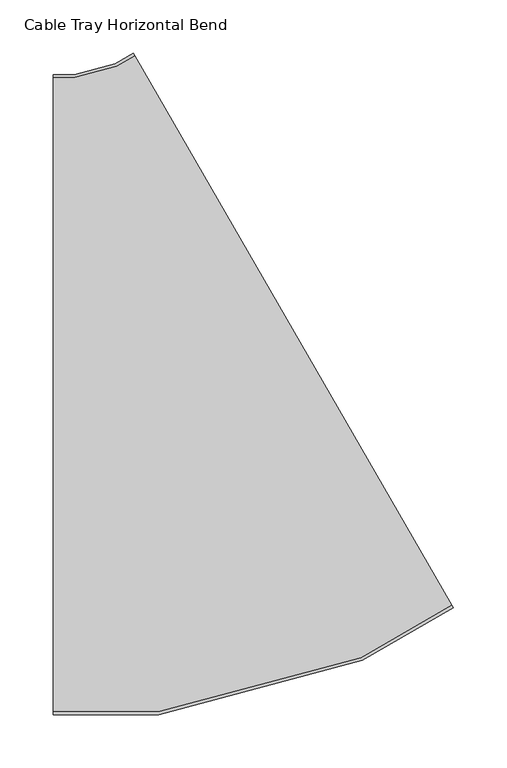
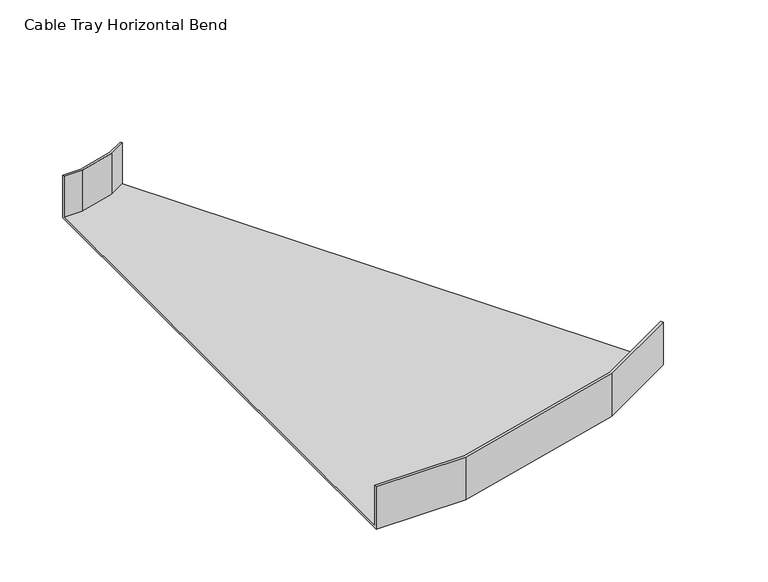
"""IFC4 building model written with IfcOpenShell, lengths in millimetres: cable carrier fitting geometry, Cable Tray Horizontal Bend : ELEC_SUB_CT_N2402."""

from ifc_helpers import new_model, si_unit, origin, place, context, project, spatial, faceted_brep, source, transform, mapped, element, save


def cable_tray_horizontal_bend_bf25e040(model_context):
    return source(origin(), model_context, "Body", "Brep", [
        faceted_brep([(-120.5771366, -300.0, -25.0), (-120.5771366, -300.0, 25.0), (-120.5771366, -297.46, 25.0), (-120.5771366, -297.46, -22.46), (-120.5771366, 297.46, -22.46), (-120.5771366, 297.46, 25.0), (-120.5771366, 300.0, 25.0), (-120.5771366, 300.0, -25.0), (254.4228634, -199.5190528, -25.0), (-45.5771366, 320.0961894, -25.0), (-45.5771366, 320.0961894, 25.0), (-44.3071366, 317.8964849, 25.0), (-44.3071366, 317.8964849, -22.46), (253.1528634, -197.3193483, -22.46), (253.1528634, -197.3193483, 25.0), (254.4228634, -199.5190528, 25.0), (-21.8377634, -300.0, -25.0), (-21.8377634, -300.0, 25.0), (168.9120579, -248.8887394, 25.0), (167.9316545, -246.5218362, 25.0), (-22.1721607, -297.46, 25.0), (-22.1721607, -297.46, -22.46), (167.9316545, -246.5218362, -22.46), (-61.6988943, 307.8553489, -22.46), (-100.4948646, 297.46, -22.46), (-100.4948646, 297.46, 25.0), (-61.6988943, 307.8553489, 25.0), (-62.6792977, 310.2222521, 25.0), (-100.829262, 300.0, 25.0), (-100.829262, 300.0, -25.0), (-62.6792977, 310.2222521, -25.0), (168.9120579, -248.8887394, -25.0)], [[[0, 1, 2, 3, 4, 5, 6, 7]], [[8, 9, 10, 11, 12, 13, 14, 15]], [[1, 0, 16, 17]], [[2, 1, 17, 18, 15, 14, 19, 20]], [[3, 2, 20, 21]], [[4, 3, 21, 22, 13, 12, 23, 24]], [[5, 4, 24, 25]], [[6, 5, 25, 26, 11, 10, 27, 28]], [[7, 6, 28, 29]], [[0, 7, 29, 30, 9, 8, 31, 16]], [[17, 16, 31, 18]], [[21, 20, 19, 22]], [[25, 24, 23, 26]], [[29, 28, 27, 30]], [[18, 31, 8, 15]], [[22, 19, 14, 13]], [[26, 23, 12, 11]], [[30, 27, 10, 9]]]),
    ])


if __name__ == "__main__":
    model = new_model("IFC4")
    model_context = context("Model", 3, world=origin())
    ifc_project = project(units=[si_unit("LENGTHUNIT", "METRE", prefix="MILLI")], contexts=[model_context])
    site = spatial("IfcSite", under=ifc_project)
    building = spatial("IfcBuilding", under=site)
    placement = place(None, origin())
    cable_tray_horizontal_bend_shape = cable_tray_horizontal_bend_bf25e040(model_context)
    element("IfcCableCarrierFitting", 1, ObjectType="Cable Tray Horizontal Bend : ELEC_SUB_CT_N2402", at=placement, inside=building, context=model_context, shape_type="MappedRepresentation", body=[
        mapped(cable_tray_horizontal_bend_shape, transform((0.0, 0.0, 0.0), x_axis=(1.0, 0.0, 0.0), y_axis=(0.0, 1.0, 0.0), z_axis=(0.0, 0.0, 1.0))),
    ])
    save(model, "model.ifc")
